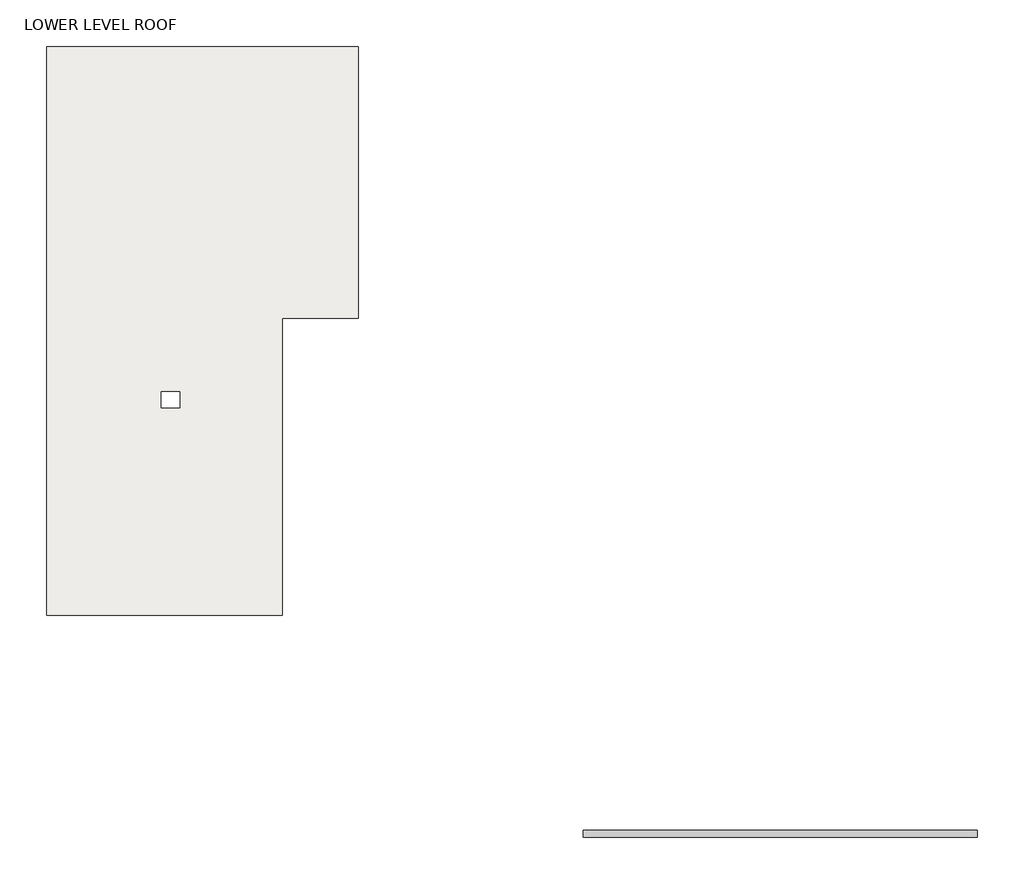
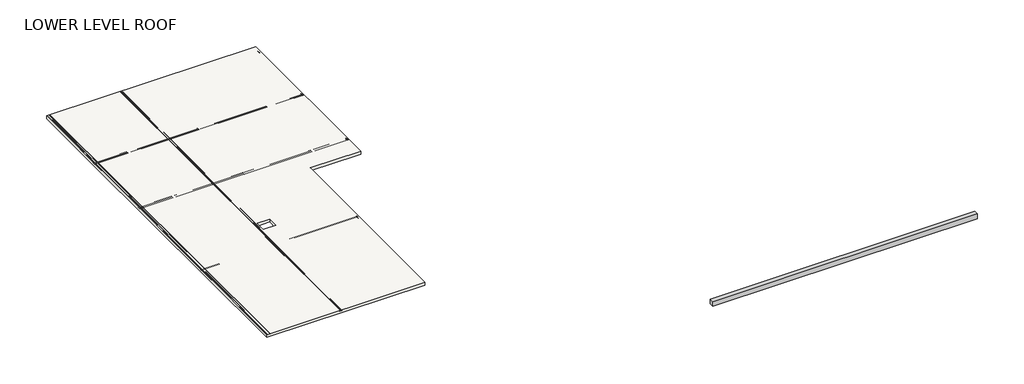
# One storey, part 1 of 2: 1 beam, 1 slab.
"""IFC4 building model written with IfcOpenShell, lengths in millimetres."""

from ifc_helpers import new_model, si_unit, frame, origin, place, context, project, spatial, polyline, outline, extrude, faceted_brep, element, save

model = new_model("IFC4")

# Units and contexts
model_context = context("Model", 3, world=origin())
ifc_project = project(units=[si_unit("LENGTHUNIT", "METRE", prefix="MILLI")], contexts=[model_context])

# Site, building, storey
site = spatial("IfcSite", under=ifc_project)
building = spatial("IfcBuilding", under=site)
storey = spatial("IfcBuildingStorey", under=building, Name="LOWER LEVEL ROOF", Elevation=34239.2)

# Beam
placement = place(None, origin())
element("IfcBeam", 1, ObjectType="Concrete-Rectangular Beam : 12 x 20", at=placement, inside=storey, context=model_context, shape_type="SweptSolid", body=[
    extrude(outline(polyline([(-14579.3497924, 33858.2), (-14884.1497924, 33858.2), (-14884.1497924, 34191.5509991), (-14579.3497924, 34178.4559697), (-14579.3497924, 33858.2)])), frame((2832.5462086, 0.0, 0.0), z_axis=(1.0, 0.0, 0.0), x_axis=(0.0, 1.0, 0.0)), (0.0, 0.0, 1.0), 17487.9),
])

# Slab
element("IfcSlab", 2, ObjectType="8\" Concrete", at=placement, inside=storey, context=model_context, shape_type="Brep", body=[
    faceted_brep([(-10507.5513201, -5025.0304995, 34036.0), (-20966.7454607, -5025.0304995, 34036.0), (-20966.7454607, -4720.2304995, 34036.0), (-20966.7454607, 14926.6695005, 34036.0), (-20966.7454607, 19543.1195005, 34036.0), (-20966.7454607, 19847.9195005, 34036.0), (-20966.7454607, 20187.6445005, 34036.0), (-7149.1454607, 20187.6445005, 34036.0), (-7149.1454607, 19847.9195005, 34036.0), (-7149.1454607, 19543.1195005, 34036.0), (-7149.1454607, 14926.6695005, 34036.0), (-7149.1454607, 14621.8695005, 34036.0), (-7149.1454607, 9795.8695005, 34036.0), (-7149.1454607, 9491.0695005, 34036.0), (-7149.1454607, 8132.1695005, 34036.0), (-7453.9454607, 8132.1695005, 34036.0), (-10507.5513201, 8132.1695005, 34036.0), (-10507.5513201, -4720.2304995, 34036.0), (-15886.7454607, 4157.0695005, 34036.0), (-15054.8954607, 4157.0695005, 34036.0), (-15054.8954607, 4866.6820005, 34036.0), (-15886.7454607, 4866.6820005, 34036.0), (-10507.5513201, -5025.0304995, 34239.2), (-10507.5513201, 8132.1695005, 34239.2), (-7149.1454607, 8132.1695005, 34239.2), (-7149.1454607, 20187.6445005, 34239.2), (-20966.7454607, 20187.6445005, 34239.2), (-20966.7454607, -5025.0304995, 34239.2), (-15886.7454607, 4157.0695005, 34239.2), (-15886.7454607, 4866.6820005, 34239.2), (-15054.8954607, 4866.6820005, 34239.2), (-15054.8954607, 4157.0695005, 34239.2)], [[[0, 1, 2, 3, 4, 5, 6, 7, 8, 9, 10, 11, 12, 13, 14, 15, 16, 17], [18, 19, 20, 21]], [[22, 23, 24, 25, 26, 27], [28, 29, 30, 31]], [[1, 0, 22, 27]], [[6, 5, 4, 3, 2, 1, 27, 26]], [[7, 6, 26, 25]], [[14, 13, 12, 11, 10, 9, 8, 7, 25, 24]], [[16, 15, 14, 24, 23]], [[0, 17, 16, 23, 22]], [[19, 18, 28, 31]], [[20, 19, 31, 30]], [[21, 20, 30, 29]], [[18, 21, 29, 28]]]),
])

save(model, "model.ifc")
